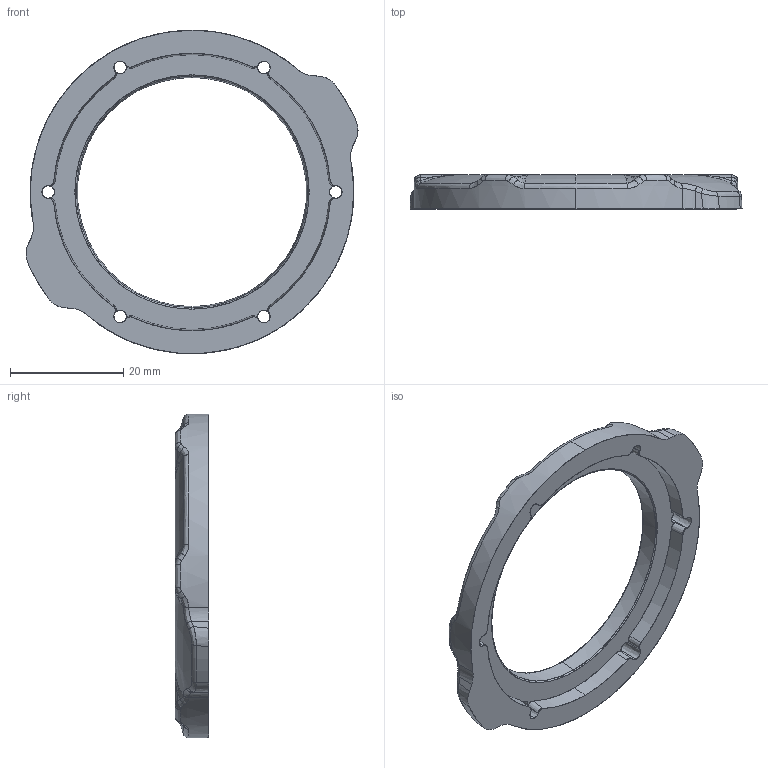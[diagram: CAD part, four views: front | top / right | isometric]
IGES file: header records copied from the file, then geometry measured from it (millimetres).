
Start section: SolidWorks IGES file using analytic representation for surfaces
Global section: file name: C:\Users\Achilles\Dropbox\BR-Engineering\PROJECTS\WTE2\MODELS\DEVELOPMENT\WTE2-P-RETAINING-RING-R1\WTE2-P-RETAINING-RING-R1.IGS; native system: SolidWorks 2016; preprocessor: SolidWorks 2016; author: Achilles; date: 181016.154946; units: millimetre
Bounding box: 58.64 x 6 x 57.16 mm (x, y, z)
Surface area: 4433.4 mm2 (no closed solid volume)
Topology: 0 solids, 0 shells, 255 faces, 2163 edges, 2163 vertices
Faces by surface type: bspline 213, revolution 42
